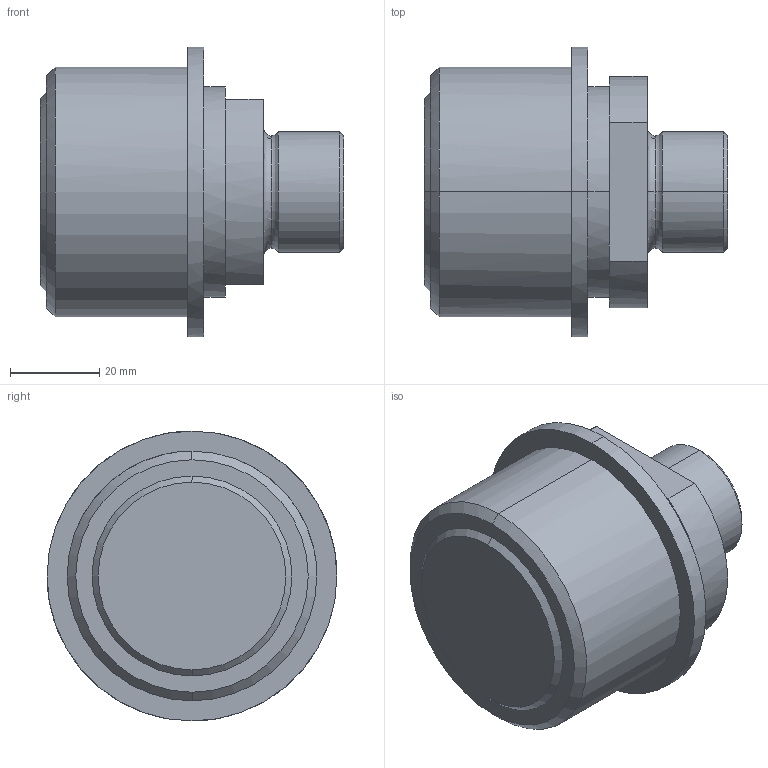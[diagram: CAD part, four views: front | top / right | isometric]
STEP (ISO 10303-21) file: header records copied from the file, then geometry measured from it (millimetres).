
FILE_DESCRIPTION(('CATIA V5 STEP Exchange'),'2;1');
FILE_NAME('C:\Users\Utente\Desktop\IO LAVORO\3D X SITO CF\X SITO\PLASTICA\AGS\AGS3412M27.stp','2021-02-21T19:36:38+00:00',('none'),('none'),'CATIA Version 5 Release 20 GA (IN-10)','CATIA V5 STEP AP203','none');
FILE_SCHEMA(('CONFIG_CONTROL_DESIGN'));
Length unit declared in the file: millimetre
Products named in the file (1): AGS3412M27
Bounding box: 68 x 65 x 65 mm (x, y, z)
Volume: 126520 mm3; surface area: 16861.7 mm2
Topology: 1 solids, 1 shells, 32 faces, 90 edges, 64 vertices
Faces by surface type: plane 12, cylinder 10, cone 6, torus 4
Entity records: 1198 total; most frequent: CARTESIAN_POINT 343, ORIENTED_EDGE 180, DIRECTION 139, EDGE_CURVE 90, AXIS2_PLACEMENT_3D 82, VERTEX_POINT 64, CIRCLE 49, EDGE_LOOP 36
